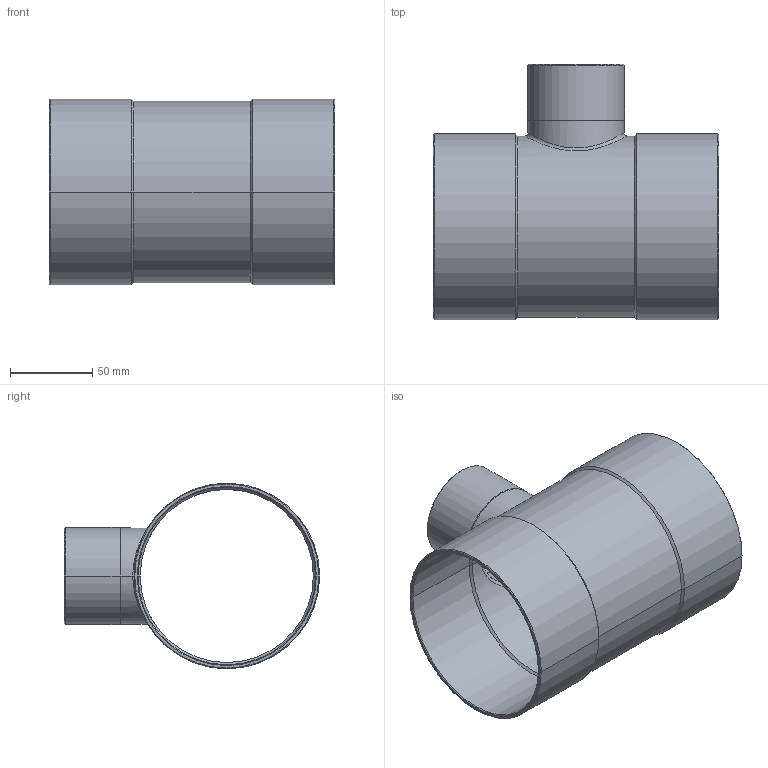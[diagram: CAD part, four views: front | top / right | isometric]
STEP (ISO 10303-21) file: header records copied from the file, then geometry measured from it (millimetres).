
FILE_DESCRIPTION((''),'2;1');
FILE_NAME('G:\Technics\CAD\Bauteile\15130\1513010854108.stp','2005-11-02T10:20:06',('boden'),(''),'Autodesk Inventor 8','Autodesk Inventor 8','');
FILE_SCHEMA(('AUTOMOTIVE_DESIGN { 1 0 10303 214 1 1 1 1 }'));
Length unit declared in the file: millimetre
Products named in the file (1): 1513010854108
Bounding box: 174 x 155.6 x 113.2 mm (x, y, z)
Volume: 165689.8 mm3; surface area: 134250.7 mm2
Topology: 1 solids, 1 shells, 49 faces, 108 edges, 60 vertices
Faces by surface type: cone 24, cylinder 20, plane 3, bspline 2
Entity records: 1701 total; most frequent: CARTESIAN_POINT 594, DIRECTION 242, ORIENTED_EDGE 216, EDGE_CURVE 108, AXIS2_PLACEMENT_3D 98, VERTEX_POINT 60, EDGE_LOOP 52, CIRCLE 50
